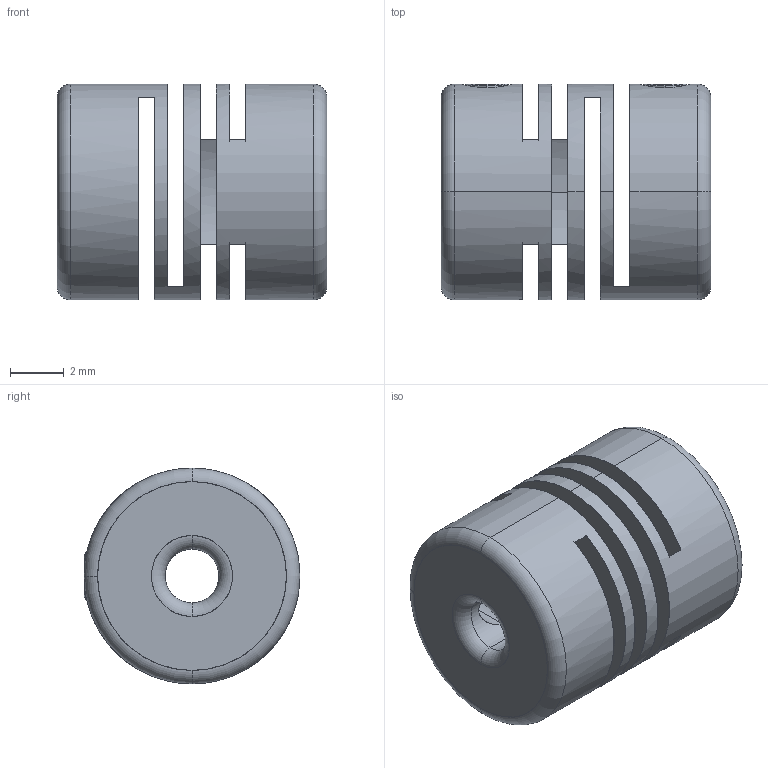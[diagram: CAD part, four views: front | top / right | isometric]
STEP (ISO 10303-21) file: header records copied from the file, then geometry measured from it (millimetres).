
FILE_DESCRIPTION (( 'STEP AP203' ), '1' );
FILE_NAME ('FAMM-S84.STEP', '2008-04-19T05:44:44', ( 'user' ), ( '' ), 'SwSTEP 2.0', 'SolidWorks 2007', '' );
FILE_SCHEMA (( 'CONFIG_CONTROL_DESIGN' ));
Length unit declared in the file: millimetre
Products named in the file (1): FAMM-S84
Bounding box: 10 x 8 x 8 mm (x, y, z)
Surface area: 691.7 mm2 (no closed solid volume)
Topology: 0 solids, 67 shells, 71 faces, 602 edges, 596 vertices
Faces by surface type: plane 29, cone 17, cylinder 12, torus 9, bspline 4
Entity records: 8466 total; most frequent: CARTESIAN_POINT 4318, DIRECTION 734, ORIENTED_EDGE 604, EDGE_CURVE 600, VERTEX_POINT 596, VECTOR 372, LINE 372, AXIS2_PLACEMENT_3D 181
